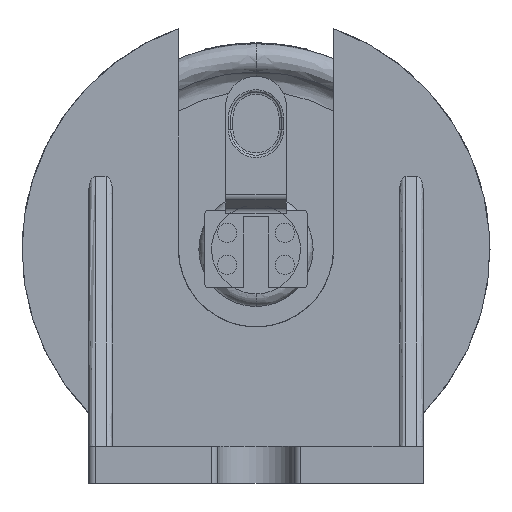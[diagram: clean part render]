
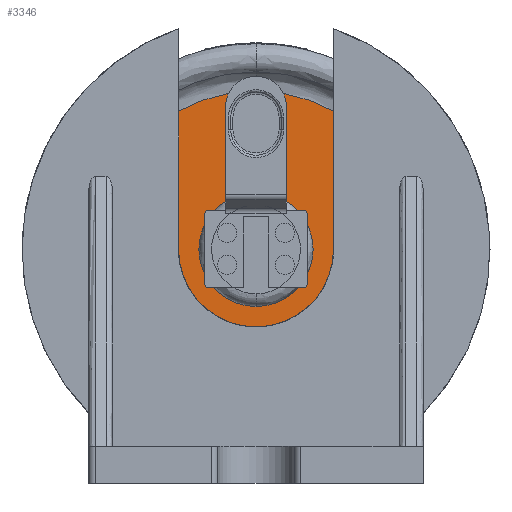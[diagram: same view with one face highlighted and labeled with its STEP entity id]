
A CAD part, left-side view. The second image highlights one B-rep face of the part: STEP entity #3346.
In plain terms, the highlighted free-form (B-spline) face has degree [3, 3] with [4, 4] control points.
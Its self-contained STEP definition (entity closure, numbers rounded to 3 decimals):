
#657=CARTESIAN_POINT('',(7.65,0.,18.3));
#658=DIRECTION('',(1.,0.,0.));
#659=DIRECTION('',(0.,0.,-1.));
#660=AXIS2_PLACEMENT_3D('',#657,#658,#659);
#662=CARTESIAN_POINT('',(7.65,0.,18.3));
#663=DIRECTION('',(1.,0.,0.));
#664=DIRECTION('',(0.,0.,1.));
#665=AXIS2_PLACEMENT_3D('',#662,#663,#664);
#667=CARTESIAN_POINT('',(7.65,0.,18.3));
#668=DIRECTION('',(-1.,0.,0.));
#669=DIRECTION('',(0.,0.,-1.));
#670=AXIS2_PLACEMENT_3D('',#667,#668,#669);
#672=CARTESIAN_POINT('',(7.65,0.,18.3));
#673=DIRECTION('',(-1.,0.,0.));
#674=DIRECTION('',(0.,0.,1.));
#675=AXIS2_PLACEMENT_3D('',#672,#673,#674);
#1639=CARTESIAN_POINT('',(7.65,0.,
13.83));
#1640=CARTESIAN_POINT('',(7.65,0.,
22.77));
#1641=VERTEX_POINT('',#1639);
#1642=VERTEX_POINT('',#1640);
#1645=CARTESIAN_POINT('',(7.65,0.,
5.911));
#1646=CARTESIAN_POINT('',(7.65,0.,
30.689));
#1647=VERTEX_POINT('',#1645);
#1648=VERTEX_POINT('',#1646);
#3319=CARTESIAN_POINT('',(7.65,-12.884,31.192));
#3320=CARTESIAN_POINT('',(7.65,-4.295,31.192));
#3321=CARTESIAN_POINT('',(7.65,4.295,31.192));
#3322=CARTESIAN_POINT('',(7.65,12.884,31.192));
#3323=CARTESIAN_POINT('',(7.65,-12.884,22.597));
#3324=CARTESIAN_POINT('',(7.65,-4.295,22.597));
#3325=CARTESIAN_POINT('',(7.65,4.295,22.597));
#3326=CARTESIAN_POINT('',(7.65,12.884,22.597));
#3327=CARTESIAN_POINT('',(7.65,-12.884,14.003));
#3328=CARTESIAN_POINT('',(7.65,-4.295,14.003));
#3329=CARTESIAN_POINT('',(7.65,4.295,14.003));
#3330=CARTESIAN_POINT('',(7.65,12.884,14.003));
#3331=CARTESIAN_POINT('',(7.65,-12.884,5.408));
#3332=CARTESIAN_POINT('',(7.65,-4.295,5.408));
#3333=CARTESIAN_POINT('',(7.65,4.295,5.408));
#3334=CARTESIAN_POINT('',(7.65,12.884,5.408));
#3335=B_SPLINE_SURFACE_WITH_KNOTS('',3,3,((#3319,#3320,#3321,#3322),(#3323,
#3324,#3325,#3326),(#3327,#3328,#3329,#3330),(#3331,#3332,#3333,#3334)),
.UNSPECIFIED.,.F.,.F.,.F.,(4,4),(4,4),(-12.892,12.892),(
-12.884,12.884),.UNSPECIFIED.);
#3337=ORIENTED_EDGE('',*,*,#3336,.T.);
#3339=ORIENTED_EDGE('',*,*,#3338,.T.);
#3340=EDGE_LOOP('',(#3337,#3339));
#3341=FACE_OUTER_BOUND('',#3340,.F.);
#3342=ORIENTED_EDGE('',*,*,#2161,.T.);
#3343=ORIENTED_EDGE('',*,*,#3312,.T.);
#3344=EDGE_LOOP('',(#3342,#3343));
#3345=FACE_BOUND('',#3344,.F.);
#3346=ADVANCED_FACE('',(#3341,#3345),#3335,.F.);
#661=CIRCLE('',#660,12.389);
#666=CIRCLE('',#665,12.389);
#671=CIRCLE('',#670,4.47);
#676=CIRCLE('',#675,4.47);
#2161=EDGE_CURVE('',#1641,#1642,#671,.T.);
#3312=EDGE_CURVE('',#1642,#1641,#676,.T.);
#3336=EDGE_CURVE('',#1647,#1648,#661,.T.);
#3338=EDGE_CURVE('',#1648,#1647,#666,.T.);
